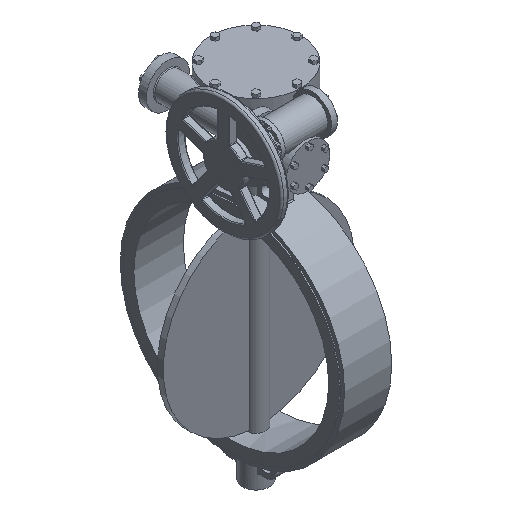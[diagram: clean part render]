
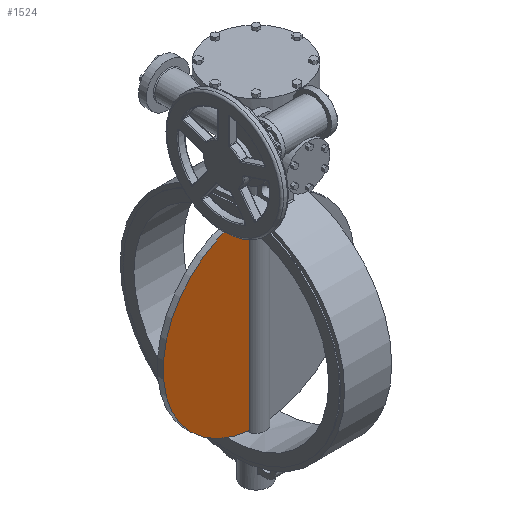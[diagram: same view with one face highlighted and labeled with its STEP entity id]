
A CAD part, isometric view. The second image highlights one B-rep face of the part: STEP entity #1524.
In plain terms, the highlighted planar face has unit normal (0, -1, 0).
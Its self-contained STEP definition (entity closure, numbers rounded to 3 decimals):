
#1524=ADVANCED_FACE('',(#7588),#7590,.T.);
#7588=FACE_BOUND('',#7589,.T.);
#7589=EDGE_LOOP('',(#11688,#11689));
#7590=PLANE('',#7591);
#7591=AXIS2_PLACEMENT_3D('',#7592,#7593,#7594);
#7592=CARTESIAN_POINT('',(0.,-7.5,0.));
#7593=DIRECTION('',(0.,-1.,0.));
#7594=DIRECTION('',(0.,0.,1.));
#11688=ORIENTED_EDGE('',*,*,#14197,.T.);
#11689=ORIENTED_EDGE('',*,*,#14303,.T.);
#14197=EDGE_CURVE('',#15939,#15936,#15940,.F.);
#14303=EDGE_CURVE('',#15936,#15939,#16147,.T.);
#15936=VERTEX_POINT('',#20307);
#15939=VERTEX_POINT('',#20349);
#15940=LINE('',#20350,#20351);
#16147=CIRCLE('',#20813,245.82);
#20307=CARTESIAN_POINT('',(-23.848,-7.5,244.66));
#20349=CARTESIAN_POINT('',(-23.848,-7.5,-244.66));
#20350=CARTESIAN_POINT('',(-23.848,-7.5,244.66));
#20351=VECTOR('',#20352,1.);
#20352=DIRECTION('',(0.,0.,-1.));
#20813=AXIS2_PLACEMENT_3D('',#20814,#20815,#20816);
#20814=CARTESIAN_POINT('',(0.,-7.5,0.));
#20815=DIRECTION('',(0.,-1.,0.));
#20816=DIRECTION('',(-0.097,0.,0.995));
